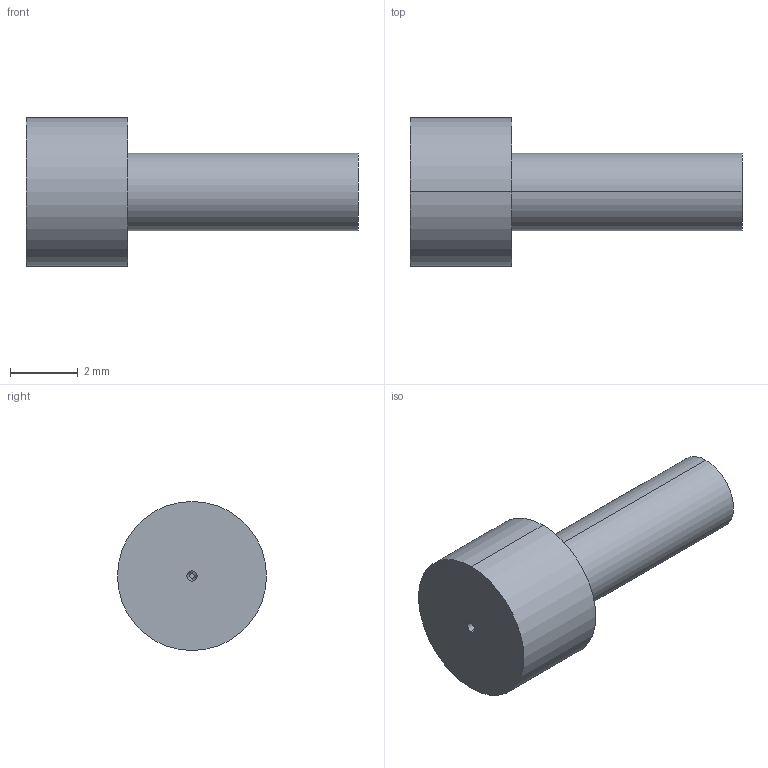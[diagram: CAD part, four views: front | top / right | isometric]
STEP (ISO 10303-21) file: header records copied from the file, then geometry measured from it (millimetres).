
FILE_DESCRIPTION (( 'STEP AP214' ), '1' );
FILE_NAME ('BR1302-8.STEP', '2020-06-15T17:22:33', ( 'August' ), ( '' ), 'SwSTEP 2.0', 'SolidWorks 2018', '' );
FILE_SCHEMA (( 'AUTOMOTIVE_DESIGN' ));
Length unit declared in the file: millimetre
Products named in the file (1): BR1302-8
Bounding box: 9.8 x 4.4 x 4.4 mm (x, y, z)
Volume: 73.9 mm3; surface area: 121.2 mm2
Topology: 1 solids, 1 shells, 10 faces, 18 edges, 12 vertices
Faces by surface type: cylinder 4, plane 4, cone 2
Entity records: 288 total; most frequent: DIRECTION 52, CARTESIAN_POINT 41, ORIENTED_EDGE 36, AXIS2_PLACEMENT_3D 23, EDGE_CURVE 18, CIRCLE 12, EDGE_LOOP 12, VERTEX_POINT 12
